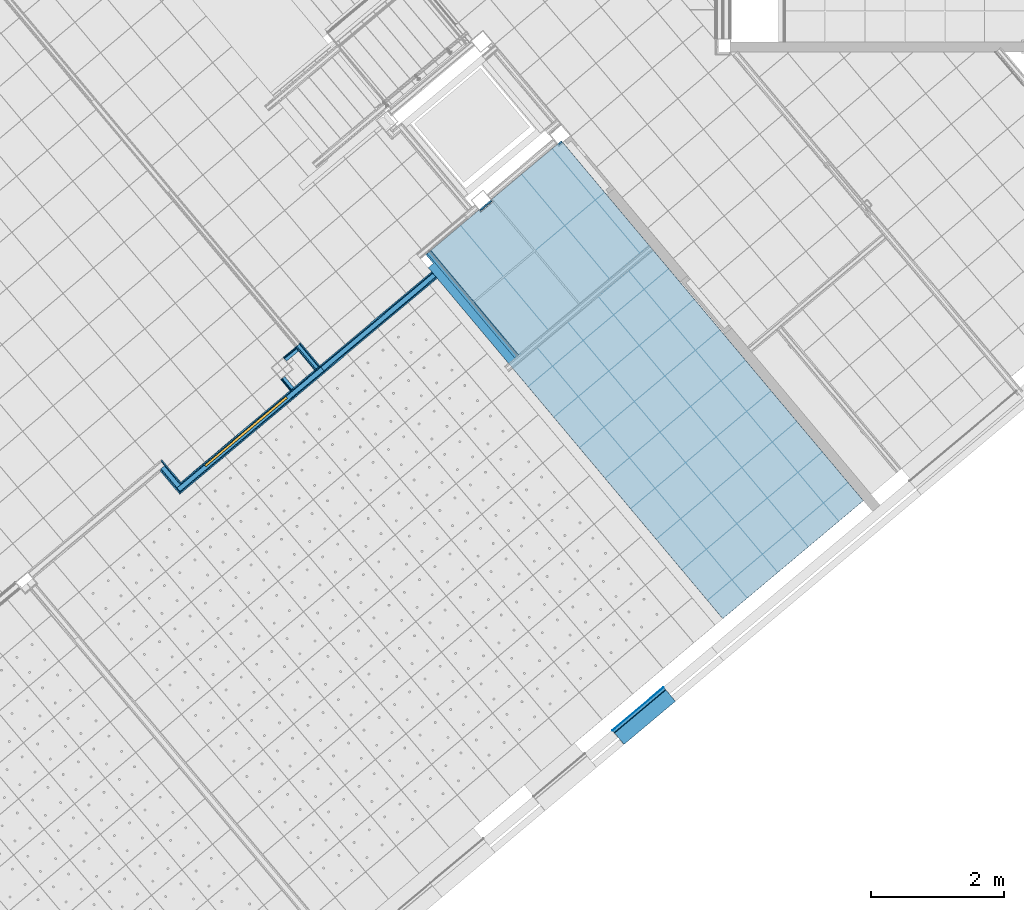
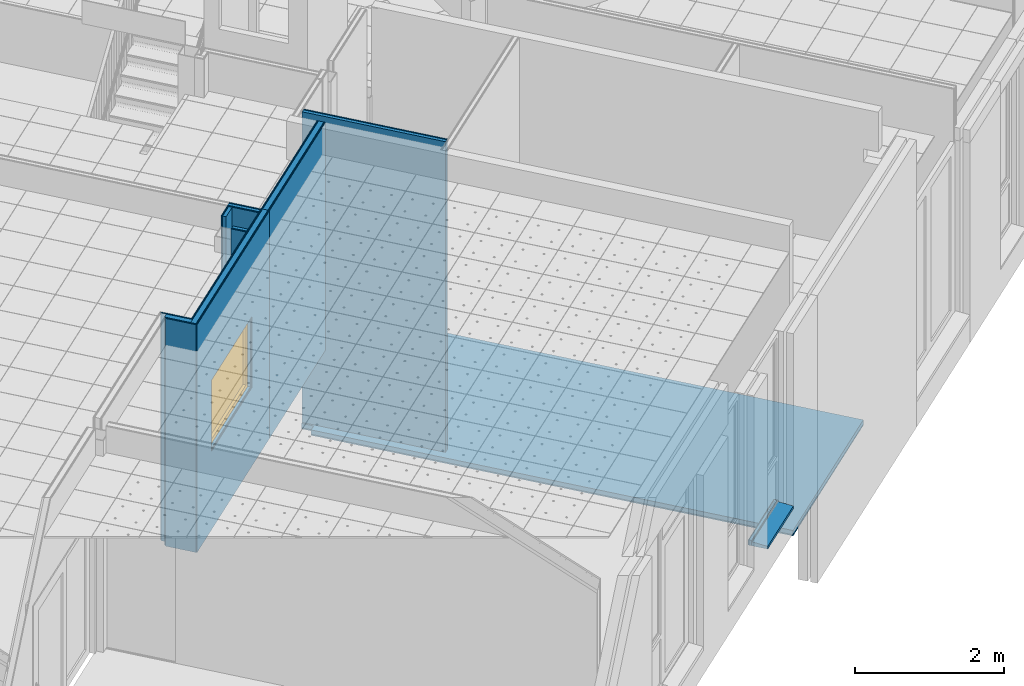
# One storey, part 65 of 338: 34 building element parts, 1 window, 1 opening, 9 elements without a shape of their own.
"""IFC2X3 building model written with IfcOpenShell, lengths in millimetres."""

from ifc_helpers import new_model, entity, si_unit, converted_unit, derived_unit, money_unit, direction, frame, origin_with_axes, place, context, subcontext, project, spatial, open_shell, faceted_brep, surface_model, material, type_object, element, fill, aggregate, save


model = new_model("IFC2X3")

# Units and contexts
model_context = context("Model", 3, precision=0.01, world=origin_with_axes(), true_north=direction((0.0, 1.0)))
plan_context = context("Plan", 3, precision=0.01, world=origin_with_axes(), true_north=direction((0.0, 1.0)))
body_context = subcontext(model_context, "Body", "Model", "MODEL_VIEW")
ifc_project = project(units=[si_unit("LENGTHUNIT", "METRE", prefix="MILLI"), si_unit("AREAUNIT", "SQUARE_METRE"), si_unit("VOLUMEUNIT", "CUBIC_METRE"), converted_unit("PLANEANGLEUNIT", "DEGREE", entity("IfcPlaneAngleMeasure", 0.0174532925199), si_unit("PLANEANGLEUNIT", "RADIAN"), dimensions=[0, 0, 0, 0, 0, 0, 0]), money_unit("EUR"), converted_unit("TIMEUNIT", "Year", entity("IfcTimeMeasure", 31556926.0), si_unit("TIMEUNIT", "SECOND"), dimensions=[0, 0, 1, 0, 0, 0, 0]), si_unit("MASSUNIT", "GRAM", prefix="KILO"), si_unit("THERMODYNAMICTEMPERATUREUNIT", "DEGREE_CELSIUS"), si_unit("LUMINOUSINTENSITYUNIT", "LUMEN"), si_unit("ENERGYUNIT", "JOULE", prefix="MEGA"), derived_unit("THERMALCONDUCTANCEUNIT", [(si_unit("POWERUNIT", "WATT"), 1), (si_unit("LENGTHUNIT", "METRE"), -1), (si_unit("THERMODYNAMICTEMPERATUREUNIT", "KELVIN"), -1)]), derived_unit("SPECIFICHEATCAPACITYUNIT", [(si_unit("ENERGYUNIT", "JOULE"), 1), (si_unit("MASSUNIT", "GRAM", prefix="KILO"), -1), (si_unit("THERMODYNAMICTEMPERATUREUNIT", "KELVIN"), -1)]), derived_unit("MASSDENSITYUNIT", [(si_unit("MASSUNIT", "GRAM", prefix="KILO"), 1), (si_unit("VOLUMEUNIT", "CUBIC_METRE"), -1)])], contexts=[model_context, plan_context])

# Site, building, storey
site_placement = place(None, origin_with_axes())
site = spatial("IfcSite", under=ifc_project, at=site_placement, Name="Fortuinstraat Woensdrecht", CompositionType="ELEMENT")
building_placement = place(site_placement, origin_with_axes())
building = spatial("IfcBuilding", under=site, at=building_placement, Name="IKC Fortuna", CompositionType="ELEMENT")
storey_placement = place(building_placement, origin_with_axes())
storey = spatial("IfcBuildingStorey", under=building, at=storey_placement, Name="00 begane grond", CompositionType="ELEMENT", Elevation=0.0)

# Window
window_style = type_object("IfcWindowStyle", Name="R1 25", ConstructionType="NOTDEFINED", OperationType="SINGLE_PANEL", ParameterTakesPrecedence=False, Sizeable=False)
wall_1_placement = place(storey_placement, frame((17481.9274939, -4940.09668432, 1360.0), z_axis=(0.0, 0.0, 1.0), x_axis=(0.766044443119, 0.642787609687, 0.0)))
opening_placement = place(wall_1_placement, frame((1305.49959372, 0.0, 1290.0), z_axis=(0.0, 0.0, 1.0), x_axis=(1.0, 0.0, 0.0)))
window_placement = place(opening_placement, frame((800.0, 0.0, 0.0), z_axis=(0.0, 0.0, 1.0), x_axis=(-1.0, 0.0, 0.0)))
window = element("IfcWindow", 1, at=window_placement, inside=storey, type_object=window_style, Name="32_Raam_h.05", ObjectType="WINDOW", OverallHeight=1167.0, OverallWidth=1600.0, context=body_context, shape_type="SurfaceModel", body=[
    faceted_brep([(1533.0, -125.0, 1100.0), (1600.0, -125.0, 1100.0), (1600.0, -63.0, 1100.0), (1533.0, -63.0, 1100.0), (1533.0, -125.0, 67.0), (1600.0, -125.0, 67.0), (1600.0, -63.0, 67.0), (1533.0, -63.0, 67.0)], [[[0, 1, 2, 3]], [[0, 4, 5, 1]], [[1, 5, 6, 2]], [[3, 2, 6, 7]], [[4, 0, 3, 7]], [[5, 4, 7, 6]]]),
    faceted_brep([(67.0, -125.0, 67.0), (0.0, -125.0, 67.0), (0.0, -63.0, 67.0), (67.0, -63.0, 67.0), (67.0, -125.0, 1100.0), (0.0, -125.0, 1100.0), (0.0, -63.0, 1100.0), (67.0, -63.0, 1100.0)], [[[0, 1, 2, 3]], [[0, 4, 5, 1]], [[1, 5, 6, 2]], [[3, 2, 6, 7]], [[4, 0, 3, 7]], [[5, 4, 7, 6]]]),
    faceted_brep([(1533.0, -125.0, 67.0), (1600.0, -125.0, 67.0), (1600.0, -63.0, 67.0), (1533.0, -63.0, 67.0), (67.0, -125.0, 67.0), (0.0, -125.0, 67.0), (0.0, -125.0, 0.0), (1600.0, -125.0, 0.0), (1600.0, -63.0, 0.0), (0.0, -63.0, 0.0), (0.0, -63.0, 67.0), (67.0, -63.0, 67.0)], [[[0, 1, 2, 3]], [[0, 4, 5, 6, 7, 1]], [[1, 7, 8, 2]], [[3, 2, 8, 9, 10, 11]], [[4, 0, 3, 11]], [[5, 4, 11, 10]], [[6, 5, 10, 9]], [[7, 6, 9, 8]]]),
    faceted_brep([(67.0, -125.0, 1100.0), (0.0, -125.0, 1100.0), (0.0, -63.0, 1100.0), (67.0, -63.0, 1100.0), (1533.0, -125.0, 1100.0), (1600.0, -125.0, 1100.0), (1600.0, -125.0, 1167.0), (0.0, -125.0, 1167.0), (0.0, -63.0, 1167.0), (1600.0, -63.0, 1167.0), (1600.0, -63.0, 1100.0), (1533.0, -63.0, 1100.0)], [[[0, 1, 2, 3]], [[0, 4, 5, 6, 7, 1]], [[1, 7, 8, 2]], [[3, 2, 8, 9, 10, 11]], [[4, 0, 3, 11]], [[5, 4, 11, 10]], [[6, 5, 10, 9]], [[7, 6, 9, 8]]]),
    surface_model("IfcShellBasedSurfaceModel", [(1533.0, -127.0, 67.0), (1533.0, -127.0, 1100.0), (67.0, -127.0, 1100.0), (67.0, -127.0, 67.0)], [open_shell([[[0, 1, 2, 3]]])]),
    surface_model("IfcShellBasedSurfaceModel", [(1533.0, -107.0, 67.0), (67.0, -107.0, 67.0), (67.0, -107.0, 1100.0), (1533.0, -107.0, 1100.0)], [open_shell([[[0, 1, 2, 3]]])]),
])

# Covering, building element parts
covering_type_1 = type_object("IfcCoveringType", Name="41 dorpel 1450 280 x 88", PredefinedType="NOTDEFINED")
covering_1_placement = place(storey_placement, frame((24032.7808189, -8641.83053966, 1447.5), z_axis=(0.0, 0.0, 1.0), x_axis=(0.76604443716, 0.642787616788, 0.0)))
covering_1 = element("IfcCovering", 2, at=covering_1_placement, inside=storey, type_object=covering_type_1, Name="41_Afwerking_Dorpel", PredefinedType="NOTDEFINED")
ifc_material_1 = material(Name="Isolatie - PUR gespoten")
building_element_part_1_placement = place(covering_1_placement, origin_with_axes())
building_element_part_1 = element("IfcBuildingElementPart", 3, at=building_element_part_1_placement, material=ifc_material_1, Name="Isolatie - PUR gespoten", context=body_context, shape_type="Brep", body=[
    faceted_brep([(1010.00000281, 129.999999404, 2.49999869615), (1010.00000281, 140.000000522, 2.5), (0.0, 140.000000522, 2.5), (0.0, 129.999999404, 2.49999869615), (1010.00000281, 129.999999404, -85.0), (1010.00000281, 140.000000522, -85.0), (0.0, 140.000000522, -85.0), (0.0, 129.999999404, -85.0)], [[[0, 1, 2, 3]], [[0, 4, 5, 1]], [[1, 5, 6, 2]], [[3, 2, 6, 7]], [[4, 0, 3, 7]], [[5, 4, 7, 6]]]),
])
ifc_material_2 = material(Name="Hout AFW")
building_element_part_2_placement = place(covering_1_placement, origin_with_axes())
building_element_part_2 = element("IfcBuildingElementPart", 4, at=building_element_part_2_placement, material=ifc_material_2, Name="Hout AFW", context=body_context, shape_type="Brep", body=[
    faceted_brep([(1010.00000281, 130.0, 2.49999910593), (1010.00000281, 130.0, -85.0), (0.0, 130.0, -85.0), (0.0, 130.0, 2.49999910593), (1010.00000281, 92.0000008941, 2.49999910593), (1010.00000281, 92.0000008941, -85.0), (0.0, 92.0000008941, -85.0), (0.0, 92.0000008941, 2.49999910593)], [[[0, 1, 2, 3]], [[0, 4, 5, 1]], [[1, 5, 6, 2]], [[3, 2, 6, 7]], [[4, 0, 3, 7]], [[5, 4, 7, 6]]]),
])
ifc_material_3 = material(Name="Steen - Kunststeen")
building_element_part_3_placement = place(covering_1_placement, origin_with_axes())
building_element_part_3 = element("IfcBuildingElementPart", 5, at=building_element_part_3_placement, material=ifc_material_3, Name="Steen - Kunststeen", context=body_context, shape_type="Brep", body=[
    faceted_brep([(1010.00000281, 82.0, -19.5865456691), (1010.00000281, 82.0, 2.5), (0.0, 82.0, 2.5), (0.0, 82.0, -19.5865456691), (1010.00000281, -140.0, -39.7722078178), (1010.00000281, -140.0, -85.0), (1010.00000281, 92.0, -85.0), (1010.00000281, 92.0, 2.5), (0.0, 92.0, 2.5), (0.0, 92.0, -85.0), (0.0, -140.0, -85.0), (0.0, -140.0, -39.7722078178)], [[[0, 1, 2, 3]], [[0, 4, 5, 6, 7, 1]], [[1, 7, 8, 2]], [[3, 2, 8, 9, 10, 11]], [[4, 0, 3, 11]], [[5, 4, 11, 10]], [[6, 5, 10, 9]], [[7, 6, 9, 8]]]),
])
aggregate(covering_1, [building_element_part_1, building_element_part_2, building_element_part_3])

# Wall, opening
wall_type_1 = type_object("IfcWallType", Name="MS125 2.75.2A 125", PredefinedType="NOTDEFINED")
wall_1 = element("IfcWall", 6, at=wall_1_placement, inside=storey, type_object=wall_type_1, Name="22_Wand_Binnenwand")
opening = element("IfcOpeningElement", 7, at=opening_placement, cuts=wall_1, Name="32_Raam_h.05", context=body_context, shape_type="Brep", body=[
    faceted_brep([(800.0, 250.0, 0.0), (800.0, 250.0, 1167.0), (800.0, -125.0, 1167.0), (800.0, -125.0, 0.0), (-800.0, 250.0, 0.0), (-800.0, 250.0, 1167.0), (-800.0, -125.0, 1167.0), (-800.0, -125.0, 0.0)], [[[0, 1, 2, 3]], [[0, 4, 5, 1]], [[1, 5, 6, 2]], [[3, 2, 6, 7]], [[4, 0, 3, 7]], [[5, 4, 7, 6]]]),
])

fill(opening, window)

# Building element part
ifc_material_4 = material(Name="Gipsplaat")
building_element_part_4_placement = place(wall_1_placement, origin_with_axes())
building_element_part_4 = element("IfcBuildingElementPart", 8, at=building_element_part_4_placement, material=ifc_material_4, Name="Gipsplaat", context=body_context, shape_type="Brep", body=[
    faceted_brep([(50.0, 125.0, 3740.0), (2793.49959372, 125.0, 3740.0), (2793.49959372, 125.0, 0.0), (50.0, 125.0, 0.0), (505.499593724, 125.0, 1290.0), (2105.49959372, 125.0, 1290.0), (2105.49959372, 125.0, 2457.0), (505.499593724, 125.0, 2457.0), (50.0, 112.5, 3740.0), (2793.49959372, 112.5, 3740.0), (2793.49959372, 112.5, 0.0), (50.0, 112.5, 0.0), (505.499593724, 112.5, 1290.0), (2105.49959372, 112.5, 1290.0), (2105.49959372, 112.5, 2457.0), (505.499593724, 112.5, 2457.0)], [[[0, 1, 2, 3], [4, 5, 6, 7]], [[8, 9, 1, 0]], [[1, 9, 10, 2]], [[3, 2, 10, 11]], [[0, 3, 11, 8]], [[12, 13, 5, 4]], [[13, 14, 6, 5]], [[14, 15, 7, 6]], [[15, 12, 4, 7]], [[11, 10, 9, 8], [12, 15, 14, 13]]]),
])

building_element_part_5_placement = place(wall_1_placement, origin_with_axes())
building_element_part_5 = element("IfcBuildingElementPart", 9, at=building_element_part_5_placement, material=ifc_material_4, Name="Gipsplaat", context=body_context, shape_type="Brep", body=[
    faceted_brep([(37.5, 112.5, 3740.0), (2793.49959372, 112.5, 3740.0), (2793.49959372, 112.5, 0.0), (37.5, 112.5, 0.0), (505.499593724, 112.5, 1290.0), (2105.49959372, 112.5, 1290.0), (2105.49959372, 112.5, 2457.0), (505.499593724, 112.5, 2457.0), (37.5, 100.0, 3740.0), (2793.49959372, 100.0, 3740.0), (2793.49959372, 100.0, 0.0), (37.5, 100.0, 0.0), (505.499593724, 100.0, 1290.0), (2105.49959372, 100.0, 1290.0), (2105.49959372, 100.0, 2457.0), (505.499593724, 100.0, 2457.0)], [[[0, 1, 2, 3], [4, 5, 6, 7]], [[8, 9, 1, 0]], [[1, 9, 10, 2]], [[3, 2, 10, 11]], [[0, 3, 11, 8]], [[12, 13, 5, 4]], [[13, 14, 6, 5]], [[14, 15, 7, 6]], [[15, 12, 4, 7]], [[11, 10, 9, 8], [12, 15, 14, 13]]]),
])

ifc_material_5 = material(Name="Isolatie - Steenwol LSW")
building_element_part_6_placement = place(wall_1_placement, origin_with_axes())
building_element_part_6 = element("IfcBuildingElementPart", 10, at=building_element_part_6_placement, material=ifc_material_5, Name="Isolatie - Steenwol LSW", context=body_context, shape_type="Brep", body=[
    faceted_brep([(-37.5, 100.0, 3740.0), (2793.49959372, 100.0, 3740.0), (2793.49959372, 100.0, 0.0), (-37.5, 100.0, 0.0), (505.499593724, 100.0, 1290.0), (2105.49959372, 100.0, 1290.0), (2105.49959372, 100.0, 2457.0), (505.499593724, 100.0, 2457.0), (-37.5, 25.0, 3740.0), (2793.49959372, 25.0, 3740.0), (2793.49959372, 25.0, 0.0), (-37.5, 25.0, 0.0), (505.499593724, 25.0, 1290.0), (2105.49959372, 25.0, 1290.0), (2105.49959372, 25.0, 2457.0), (505.499593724, 25.0, 2457.0)], [[[0, 1, 2, 3], [4, 5, 6, 7]], [[8, 9, 1, 0]], [[1, 9, 10, 2]], [[3, 2, 10, 11]], [[0, 3, 11, 8]], [[12, 13, 5, 4]], [[13, 14, 6, 5]], [[14, 15, 7, 6]], [[15, 12, 4, 7]], [[11, 10, 9, 8], [12, 15, 14, 13]]]),
])

building_element_part_7_placement = place(wall_1_placement, origin_with_axes())
building_element_part_7 = element("IfcBuildingElementPart", 11, at=building_element_part_7_placement, material=ifc_material_4, Name="Gipsplaat", context=body_context, shape_type="Brep", body=[
    faceted_brep([(2793.49959372, 25.0, 3740.0), (2793.49959372, 25.0, 0.0), (-50.0, 25.0, 0.0), (-50.0, 25.0, 3740.0), (505.499593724, 25.0, 1290.0), (2105.49959372, 25.0, 1290.0), (2105.49959372, 25.0, 2457.0), (505.499593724, 25.0, 2457.0), (2793.49959372, 12.5, 3740.0), (2793.49959372, 12.5, 0.0), (-50.0, 12.5, 0.0), (-50.0, 12.5, 3740.0), (505.499593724, 12.5, 1290.0), (2105.49959372, 12.5, 1290.0), (2105.49959372, 12.5, 2457.0), (505.499593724, 12.5, 2457.0)], [[[0, 1, 2, 3], [4, 5, 6, 7]], [[8, 9, 1, 0]], [[1, 9, 10, 2]], [[2, 10, 11, 3]], [[8, 0, 3, 11]], [[12, 13, 5, 4]], [[13, 14, 6, 5]], [[14, 15, 7, 6]], [[15, 12, 4, 7]], [[9, 8, 11, 10], [12, 15, 14, 13]]]),
])

building_element_part_8_placement = place(wall_1_placement, origin_with_axes())
building_element_part_8 = element("IfcBuildingElementPart", 12, at=building_element_part_8_placement, material=ifc_material_4, Name="Gipsplaat", context=body_context, shape_type="Brep", body=[
    faceted_brep([(2793.49959372, 12.5, 3740.0), (2793.49959372, 12.5, 0.0), (-62.5, 12.5, 0.0), (-62.5, 12.5, 3740.0), (505.499593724, 12.5, 1290.0), (2105.49959372, 12.5, 1290.0), (2105.49959372, 12.5, 2457.0), (505.499593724, 12.5, 2457.0), (2793.49959372, 0.0, 3740.0), (2793.49959372, 0.0, 0.0), (-62.5, 0.0, 0.0), (-62.5, 0.0, 3740.0), (505.499593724, 0.0, 1290.0), (2105.49959372, 0.0, 1290.0), (2105.49959372, 0.0, 2457.0), (505.499593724, 0.0, 2457.0)], [[[0, 1, 2, 3], [4, 5, 6, 7]], [[8, 9, 1, 0]], [[1, 9, 10, 2]], [[2, 10, 11, 3]], [[8, 0, 3, 11]], [[12, 13, 5, 4]], [[13, 14, 6, 5]], [[14, 15, 7, 6]], [[15, 12, 4, 7]], [[9, 8, 11, 10], [12, 15, 14, 13]]]),
])

aggregate(wall_1, [building_element_part_4, building_element_part_5, building_element_part_6, building_element_part_7, building_element_part_8])

# Wall, building element parts
wall_2_placement = place(storey_placement, frame((17481.9274939, -4940.09668432, 1360.0), z_axis=(0.0, 0.0, 1.0), x_axis=(-0.642787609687, 0.766044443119, 0.0)))
wall_2 = element("IfcWall", 13, at=wall_2_placement, inside=storey, type_object=wall_type_1, Name="22_Wand_Binnenwand")
building_element_part_9_placement = place(wall_2_placement, origin_with_axes())
building_element_part_9 = element("IfcBuildingElementPart", 14, at=building_element_part_9_placement, material=ifc_material_4, Name="Gipsplaat", context=body_context, shape_type="Brep", body=[
    faceted_brep([(450.0, 62.5, 3740.0), (12.5, 62.5, 3740.0), (12.5, 50.0, 3740.0), (450.0, 50.0, 3740.0), (450.0, 62.5, 0.0), (12.5, 62.5, 0.0), (12.5, 50.0, 0.0), (450.0, 50.0, 0.0)], [[[0, 1, 2, 3]], [[4, 5, 1, 0]], [[2, 1, 5, 6]], [[3, 2, 6, 7]], [[3, 7, 4, 0]], [[7, 6, 5, 4]]]),
])
building_element_part_10_placement = place(wall_2_placement, origin_with_axes())
building_element_part_10 = element("IfcBuildingElementPart", 15, at=building_element_part_10_placement, material=ifc_material_4, Name="Gipsplaat", context=body_context, shape_type="Brep", body=[
    faceted_brep([(462.5, 50.0, 3740.0), (25.0, 50.0, 3740.0), (25.0, 37.5, 3740.0), (462.5, 37.5, 3740.0), (462.5, 50.0, 0.0), (25.0, 50.0, 0.0), (25.0, 37.5, 0.0), (462.5, 37.5, 0.0)], [[[0, 1, 2, 3]], [[4, 5, 1, 0]], [[2, 1, 5, 6]], [[3, 2, 6, 7]], [[3, 7, 4, 0]], [[7, 6, 5, 4]]]),
])
building_element_part_11_placement = place(wall_2_placement, origin_with_axes())
building_element_part_11 = element("IfcBuildingElementPart", 16, at=building_element_part_11_placement, material=ifc_material_5, Name="Isolatie - Steenwol LSW", context=body_context, shape_type="Brep", body=[
    faceted_brep([(475.0, 37.5, 3740.0), (100.0, 37.5, 3740.0), (100.0, -37.5, 3740.0), (475.0, -37.5, 3740.0), (475.0, 37.5, 0.0), (100.0, 37.5, 0.0), (100.0, -37.5, 0.0), (475.0, -37.5, 0.0)], [[[0, 1, 2, 3]], [[4, 5, 1, 0]], [[2, 1, 5, 6]], [[3, 2, 6, 7]], [[3, 7, 4, 0]], [[7, 6, 5, 4]]]),
])
building_element_part_12_placement = place(wall_2_placement, origin_with_axes())
building_element_part_12 = element("IfcBuildingElementPart", 17, at=building_element_part_12_placement, material=ifc_material_4, Name="Gipsplaat", context=body_context, shape_type="Brep", body=[
    faceted_brep([(550.0, -37.5, 3740.0), (112.5, -37.5, 3740.0), (112.5, -50.0, 3740.0), (550.0, -50.0, 3740.0), (550.0, -37.5, 0.0), (112.5, -37.5, 0.0), (112.5, -50.0, 0.0), (550.0, -50.0, 0.0)], [[[0, 1, 2, 3]], [[4, 5, 1, 0]], [[2, 1, 5, 6]], [[3, 2, 6, 7]], [[3, 7, 4, 0]], [[7, 6, 5, 4]]]),
])
building_element_part_13_placement = place(wall_2_placement, origin_with_axes())
building_element_part_13 = element("IfcBuildingElementPart", 18, at=building_element_part_13_placement, material=ifc_material_4, Name="Gipsplaat", context=body_context, shape_type="Brep", body=[
    faceted_brep([(562.5, -50.0, 3740.0), (125.0, -50.0, 3740.0), (125.0, -62.5, 3740.0), (562.5, -62.5, 3740.0), (562.5, -50.0, 0.0), (125.0, -50.0, 0.0), (125.0, -62.5, 0.0), (562.5, -62.5, 0.0)], [[[0, 1, 2, 3]], [[4, 5, 1, 0]], [[2, 1, 5, 6]], [[3, 2, 6, 7]], [[3, 7, 4, 0]], [[7, 6, 5, 4]]]),
])
aggregate(wall_2, [building_element_part_9, building_element_part_10, building_element_part_11, building_element_part_12, building_element_part_13])

# Covering, building element parts
covering_type_2 = type_object("IfcCoveringType", Name="43 Vloerafwerking 90", PredefinedType="FLOORING")
covering_2_placement = place(storey_placement, frame((21061.301629, -1437.32232105, 0.0), z_axis=(0.0, 0.0, 1.0), x_axis=(1.0, 0.0, 0.0)))
covering_2 = element("IfcCovering", 19, at=covering_2_placement, inside=storey, type_object=covering_type_2, Name="43_Vloerafwerking_Vloerafwerking", PredefinedType="FLOORING")
ifc_material_6 = material(Name="Cement")
building_element_part_14_placement = place(covering_2_placement, origin_with_axes())
building_element_part_14 = element("IfcBuildingElementPart", 20, at=building_element_part_14_placement, material=ifc_material_6, Name="Cement", context=body_context, shape_type="Brep", body=[
    faceted_brep([(898.188456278, 728.469522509, -50.0), (905.259119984, 720.043033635, -50.0), (1073.78889747, 861.456307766, -50.0), (1066.71823376, 869.88279664, -50.0), (998.923300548, 812.996093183, -50.0), (990.478790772, 809.058353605, -50.0), (981.196760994, 809.870425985, -50.0), (973.564323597, 815.214716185, -50.0), (972.725900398, 816.213910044, -50.0), (967.363589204, 811.714396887, -50.0), (968.202012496, 810.715202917, -50.0), (972.139752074, 802.270693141, -50.0), (971.327679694, 792.988663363, -50.0), (965.983389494, 785.356225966, -50.0), (898.188456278, 728.469522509, 0.0), (885.779854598, 743.25751814, 0.0), (885.779854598, 743.25751814, -70.0), (905.259119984, 720.043033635, -70.0), (1073.78889747, 861.456307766, -70.0), (1054.309635, 884.670788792, -70.0), (1054.309635, 884.670788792, 0.0), (1066.71823376, 869.88279664, 0.0), (998.923300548, 812.996093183, 0.0), (990.478790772, 809.058353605, 0.0), (981.196760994, 809.870425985, 0.0), (973.564323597, 815.214716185, 0.0), (972.725900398, 816.213910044, 0.0), (967.363589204, 811.714396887, 0.0), (968.202012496, 810.715202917, 0.0), (972.139752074, 802.270693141, 0.0), (971.327679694, 792.988663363, 0.0), (965.983389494, 785.356225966, 0.0)], [[[0, 1, 2, 3, 4, 5, 6, 7, 8, 9, 10, 11, 12, 13]], [[1, 0, 14, 15, 16, 17]], [[2, 1, 17, 18]], [[3, 2, 18, 19, 20, 21]], [[3, 21, 22, 4]], [[22, 23, 5, 4]], [[23, 24, 6, 5]], [[24, 25, 7, 6]], [[25, 26, 8, 7]], [[16, 15, 27, 9, 8, 26, 20, 19]], [[27, 28, 10, 9]], [[28, 29, 11, 10]], [[29, 30, 12, 11]], [[30, 31, 13, 12]], [[14, 0, 13, 31]], [[15, 14, 31, 30, 29, 28, 27]], [[17, 16, 19, 18]], [[21, 20, 26, 25, 24, 23, 22]]]),
    faceted_brep([(903.718409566, 702.432632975, 0.0), (876.204298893, 735.222673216, 0.0), (76.6044206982, 64.2787384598, 0.0), (189.094495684, -69.7817125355, 0.0), (112.781554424, -133.815873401, 0.0), (4548.01604559, -5419.52251224, 0.0), (6665.83736742, -3642.45949668, 0.0), (2137.38767573, 1754.33670974, 0.0), (2083.76465314, 1709.34165126, 0.0), (2076.69398944, 1717.76814013, 0.0), (2130.31701204, 1762.76319862, 0.0), (2118.11280859, 1777.30760197, 0.0), (1063.88519071, 892.705633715, 0.0), (1091.39929813, 859.915597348, 0.0), (903.718409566, 702.432632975, -70.0), (876.204298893, 735.222673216, -70.0), (76.6044206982, 64.2787384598, -70.0), (189.094495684, -69.7817125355, -70.0), (112.781554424, -133.815873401, -70.0), (4548.01604559, -5419.52251224, -70.0), (6665.83736742, -3642.45949668, -70.0), (2130.31701204, 1762.76319862, -50.0), (2137.38767573, 1754.33670974, -50.0), (2118.11280859, 1777.30760197, -70.0), (2083.76465314, 1709.34165126, -50.0), (2076.69398944, 1717.76814013, -50.0), (1063.88519071, 892.705633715, -70.0), (1091.39929813, 859.915597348, -70.0)], [[[0, 1, 2, 3, 4, 5, 6, 7, 8, 9, 10, 11, 12, 13]], [[1, 0, 14, 15]], [[1, 15, 16, 2]], [[17, 3, 2, 16]], [[18, 4, 3, 17]], [[5, 4, 18, 19]], [[20, 6, 5, 19]], [[21, 22, 7, 6, 20, 23, 11, 10]], [[8, 7, 22, 24]], [[9, 8, 24, 25]], [[21, 10, 9, 25]], [[26, 12, 11, 23]], [[13, 12, 26, 27]], [[0, 13, 27, 14]], [[27, 26, 23, 20, 19, 18, 17, 16, 15, 14]], [[22, 21, 25, 24]]]),
])
ifc_material_7 = material(Name="Isolatie - XPS zwevende dekvloer")
building_element_part_15_placement = place(covering_2_placement, origin_with_axes())
building_element_part_15 = element("IfcBuildingElementPart", 21, at=building_element_part_15_placement, material=ifc_material_7, Name="Isolatie - XPS zwevende dekvloer", context=body_context, shape_type="Brep", body=[
    faceted_brep([(885.779854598, 743.25751814, -70.0), (905.259119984, 720.043033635, -70.0), (1073.78889747, 861.456307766, -70.0), (1054.309635, 884.670788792, -70.0), (885.779854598, 743.25751814, -90.0), (905.259119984, 720.043033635, -90.0), (1073.78889747, 861.456307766, -90.0), (1054.309635, 884.670788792, -90.0)], [[[0, 1, 2, 3]], [[1, 0, 4, 5]], [[2, 1, 5, 6]], [[3, 2, 6, 7]], [[4, 0, 3, 7]], [[5, 4, 7, 6]]]),
    faceted_brep([(903.718409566, 702.432632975, -70.0), (876.204298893, 735.222673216, -70.0), (76.6044206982, 64.2787384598, -70.0), (189.094495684, -69.7817125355, -70.0), (112.781554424, -133.815873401, -70.0), (4548.01604559, -5419.52251224, -70.0), (6665.83736742, -3642.45949668, -70.0), (2118.11280859, 1777.30760197, -70.0), (1063.88519071, 892.705633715, -70.0), (1091.39929813, 859.915597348, -70.0), (903.718409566, 702.432632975, -90.0), (876.204298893, 735.222673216, -90.0), (76.6044206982, 64.2787384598, -90.0), (189.094495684, -69.7817125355, -90.0), (112.781554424, -133.815873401, -90.0), (4548.01604559, -5419.52251224, -90.0), (6665.83736742, -3642.45949668, -90.0), (2118.11280859, 1777.30760197, -90.0), (1063.88519071, 892.705633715, -90.0), (1091.39929813, 859.915597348, -90.0)], [[[0, 1, 2, 3, 4, 5, 6, 7, 8, 9]], [[1, 0, 10, 11]], [[1, 11, 12, 2]], [[13, 3, 2, 12]], [[14, 4, 3, 13]], [[5, 4, 14, 15]], [[16, 6, 5, 15]], [[17, 7, 6, 16]], [[18, 8, 7, 17]], [[9, 8, 18, 19]], [[0, 9, 19, 10]], [[19, 18, 17, 16, 15, 14, 13, 12, 11, 10]]]),
])
aggregate(covering_2, [building_element_part_14, building_element_part_15])

# Wall, building element parts
wall_type_2 = type_object("IfcWallType", Name="MS75 50.2A 75", PredefinedType="NOTDEFINED")
wall_3_placement = place(storey_placement, frame((22598.8590643, -2958.56712535, -90.0), z_axis=(0.0, 0.0, 1.0), x_axis=(-0.642787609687, 0.766044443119, 0.0)))
wall_3 = element("IfcWall", 22, at=wall_3_placement, inside=storey, type_object=wall_type_2, Name="22_Wand_Binnenwand")
building_element_part_16_placement = place(wall_3_placement, origin_with_axes())
building_element_part_16 = element("IfcBuildingElementPart", 23, at=building_element_part_16_placement, material=ifc_material_5, Name="Isolatie - Steenwol LSW", context=body_context, shape_type="Brep", body=[
    faceted_brep([(2153.66400696, 25.0, 0.0), (100.0, 25.0, 0.0), (100.0, 75.0, 0.0), (2153.66400696, 75.0, 0.0), (2153.66400696, 25.0, 5190.0), (100.0, 25.0, 5190.0), (100.0, 75.0, 5190.0), (2153.66400696, 75.0, 5190.0)], [[[0, 1, 2, 3]], [[4, 5, 1, 0]], [[2, 1, 5, 6]], [[3, 2, 6, 7]], [[3, 7, 4, 0]], [[7, 6, 5, 4]]]),
])
building_element_part_17_placement = place(wall_3_placement, origin_with_axes())
building_element_part_17 = element("IfcBuildingElementPart", 24, at=building_element_part_17_placement, material=ifc_material_4, Name="Gipsplaat", context=body_context, shape_type="Brep", body=[
    faceted_brep([(2153.66400696, 12.5, 0.0), (100.0, 12.5, 0.0), (100.0, 25.0, 0.0), (2153.66400696, 25.0, 0.0), (2153.66400696, 12.5, 5190.0), (100.0, 12.5, 5190.0), (100.0, 25.0, 5190.0), (2153.66400696, 25.0, 5190.0)], [[[0, 1, 2, 3]], [[4, 5, 1, 0]], [[2, 1, 5, 6]], [[3, 2, 6, 7]], [[3, 7, 4, 0]], [[7, 6, 5, 4]]]),
])
building_element_part_18_placement = place(wall_3_placement, origin_with_axes())
building_element_part_18 = element("IfcBuildingElementPart", 25, at=building_element_part_18_placement, material=ifc_material_4, Name="Gipsplaat", context=body_context, shape_type="Brep", body=[
    faceted_brep([(2153.66400696, 0.0, 0.0), (100.0, 0.0, 0.0), (100.0, 12.5, 0.0), (2153.66400696, 12.5, 0.0), (2153.66400696, 0.0, 5190.0), (100.0, 0.0, 5190.0), (100.0, 12.5, 5190.0), (2153.66400696, 12.5, 5190.0)], [[[0, 1, 2, 3]], [[4, 5, 1, 0]], [[2, 1, 5, 6]], [[3, 2, 6, 7]], [[3, 7, 4, 0]], [[7, 6, 5, 4]]]),
])
aggregate(wall_3, [building_element_part_16, building_element_part_17, building_element_part_18])

wall_type_3 = type_object("IfcWallType", Name="MS100 2.50.2A 100", PredefinedType="NOTDEFINED")
wall_4_placement = place(storey_placement, frame((19252.4628668, -2704.22469748, 1360.0), z_axis=(0.0, 0.0, 1.0), x_axis=(0.642787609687, -0.766044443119, 0.0)))
wall_4 = element("IfcWall", 26, at=wall_4_placement, inside=storey, type_object=wall_type_3, Name="22_Wand_Binnenwand")
building_element_part_19_placement = place(wall_4_placement, origin_with_axes())
building_element_part_19 = element("IfcBuildingElementPart", 27, at=building_element_part_19_placement, material=ifc_material_4, Name="Gipsplaat", context=body_context, shape_type="Brep", body=[
    faceted_brep([(449.699110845, -12.5, 3740.0), (449.699110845, 0.0, 3740.0), (0.0, 0.0, 3740.0), (0.0, -12.5, 3740.0), (449.699110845, -12.5, 0.0), (449.699110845, 0.0, 0.0), (0.0, 0.0, 0.0), (0.0, -12.5, 0.0)], [[[0, 1, 2, 3]], [[1, 0, 4, 5]], [[1, 5, 6, 2]], [[3, 2, 6, 7]], [[4, 0, 3, 7]], [[5, 4, 7, 6]]]),
])
building_element_part_20_placement = place(wall_4_placement, origin_with_axes())
building_element_part_20 = element("IfcBuildingElementPart", 28, at=building_element_part_20_placement, material=ifc_material_4, Name="Gipsplaat", context=body_context, shape_type="Brep", body=[
    faceted_brep([(449.699110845, -25.0, 3740.0), (449.699110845, -12.5, 3740.0), (0.0, -12.5, 3740.0), (0.0, -25.0, 3740.0), (449.699110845, -12.5, 0.0), (449.699110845, -25.0, 0.0), (0.0, -12.5, 0.0), (0.0, -25.0, 0.0)], [[[0, 1, 2, 3]], [[4, 1, 0, 5]], [[1, 4, 6, 2]], [[3, 2, 6, 7]], [[5, 0, 3, 7]], [[4, 5, 7, 6]]]),
])
building_element_part_21_placement = place(wall_4_placement, origin_with_axes())
building_element_part_21 = element("IfcBuildingElementPart", 29, at=building_element_part_21_placement, material=ifc_material_5, Name="Isolatie - Steenwol LSW", context=body_context, shape_type="Brep", body=[
    faceted_brep([(449.699110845, -75.0, 3740.0), (449.699110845, -25.0, 3740.0), (0.0, -25.0, 3740.0), (0.0, -75.0, 3740.0), (449.699110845, -25.0, 0.0), (449.699110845, -75.0, 0.0), (0.0, -25.0, 0.0), (0.0, -75.0, 0.0)], [[[0, 1, 2, 3]], [[4, 1, 0, 5]], [[1, 4, 6, 2]], [[3, 2, 6, 7]], [[5, 0, 3, 7]], [[4, 5, 7, 6]]]),
])
building_element_part_22_placement = place(wall_4_placement, origin_with_axes())
building_element_part_22 = element("IfcBuildingElementPart", 30, at=building_element_part_22_placement, material=ifc_material_4, Name="Gipsplaat", context=body_context, shape_type="Brep", body=[
    faceted_brep([(449.699110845, -87.5, 3740.0), (449.699110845, -75.0, 3740.0), (0.0, -75.0, 3740.0), (0.0, -87.5, 3740.0), (449.699110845, -75.0, 0.0), (449.699110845, -87.5, 0.0), (0.0, -75.0, 0.0), (0.0, -87.5, 0.0)], [[[0, 1, 2, 3]], [[4, 1, 0, 5]], [[1, 4, 6, 2]], [[3, 2, 6, 7]], [[5, 0, 3, 7]], [[4, 5, 7, 6]]]),
])
building_element_part_23_placement = place(wall_4_placement, origin_with_axes())
building_element_part_23 = element("IfcBuildingElementPart", 31, at=building_element_part_23_placement, material=ifc_material_4, Name="Gipsplaat", context=body_context, shape_type="Brep", body=[
    faceted_brep([(449.699110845, -100.0, 3740.0), (449.699110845, -87.5, 3740.0), (0.0, -87.5, 3740.0), (0.0, -100.0, 3740.0), (449.699110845, -87.5, 0.0), (449.699110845, -100.0, 0.0), (0.0, -87.5, 0.0), (0.0, -100.0, 0.0)], [[[0, 1, 2, 3]], [[4, 1, 0, 5]], [[1, 4, 6, 2]], [[3, 2, 6, 7]], [[5, 0, 3, 7]], [[4, 5, 7, 6]]]),
])
aggregate(wall_4, [building_element_part_19, building_element_part_20, building_element_part_21, building_element_part_22, building_element_part_23])

wall_5_placement = place(storey_placement, frame((18957.3919399, -3258.58931638, 1450.0), z_axis=(0.0, 0.0, 1.0), x_axis=(0.642787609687, -0.766044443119, 0.0)))
wall_5 = element("IfcWall", 32, at=wall_5_placement, inside=storey, type_object=wall_type_2, Name="22_Wand_Binnenwand")
building_element_part_24_placement = place(wall_5_placement, origin_with_axes())
building_element_part_24 = element("IfcBuildingElementPart", 33, at=building_element_part_24_placement, material=ifc_material_5, Name="Isolatie - Steenwol LSW", context=body_context, shape_type="Brep", body=[
    faceted_brep([(214.699110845, 25.0, 0.0), (0.0, 25.0, 0.0), (0.0, 75.0, 0.0), (214.699110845, 75.0, 0.0), (214.699110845, 25.0, 3650.0), (0.0, 25.0, 3650.0), (0.0, 75.0, 3650.0), (214.699110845, 75.0, 3650.0)], [[[0, 1, 2, 3]], [[4, 5, 1, 0]], [[2, 1, 5, 6]], [[3, 2, 6, 7]], [[3, 7, 4, 0]], [[7, 6, 5, 4]]]),
])
building_element_part_25_placement = place(wall_5_placement, origin_with_axes())
building_element_part_25 = element("IfcBuildingElementPart", 34, at=building_element_part_25_placement, material=ifc_material_4, Name="Gipsplaat", context=body_context, shape_type="Brep", body=[
    faceted_brep([(214.699110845, 12.5, 0.0), (0.0, 12.5, 0.0), (0.0, 25.0, 0.0), (214.699110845, 25.0, 0.0), (214.699110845, 12.5, 3650.0), (0.0, 12.5, 3650.0), (0.0, 25.0, 3650.0), (214.699110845, 25.0, 3650.0)], [[[0, 1, 2, 3]], [[4, 5, 1, 0]], [[2, 1, 5, 6]], [[3, 2, 6, 7]], [[3, 7, 4, 0]], [[7, 6, 5, 4]]]),
])
building_element_part_26_placement = place(wall_5_placement, origin_with_axes())
building_element_part_26 = element("IfcBuildingElementPart", 35, at=building_element_part_26_placement, material=ifc_material_4, Name="Gipsplaat", context=body_context, shape_type="Brep", body=[
    faceted_brep([(214.699110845, 0.0, 0.0), (0.0, 0.0, 0.0), (0.0, 12.5, 0.0), (214.699110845, 12.5, 0.0), (214.699110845, 0.0, 3650.0), (0.0, 0.0, 3650.0), (0.0, 12.5, 3650.0), (214.699110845, 12.5, 3650.0)], [[[0, 1, 2, 3]], [[4, 5, 1, 0]], [[2, 1, 5, 6]], [[3, 2, 6, 7]], [[3, 7, 4, 0]], [[7, 6, 5, 4]]]),
])
aggregate(wall_5, [building_element_part_24, building_element_part_25, building_element_part_26])

wall_6_placement = place(storey_placement, frame((18994.0177402, -2921.08590787, 1450.0), z_axis=(0.0, 0.0, 1.0), x_axis=(0.766044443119, 0.642787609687, 0.0)))
wall_6 = element("IfcWall", 36, at=wall_6_placement, inside=storey, type_object=wall_type_2, Name="22_Wand_Binnenwand")
building_element_part_27_placement = place(wall_6_placement, origin_with_axes())
building_element_part_27 = element("IfcBuildingElementPart", 37, at=building_element_part_27_placement, material=ifc_material_4, Name="Gipsplaat", context=body_context, shape_type="Brep", body=[
    faceted_brep([(237.376152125, -12.5, 0.0), (237.376152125, -12.5, 3650.0), (0.0, -12.5, 3650.0), (0.0, -12.5, 0.0), (237.376152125, 0.0, 3650.0), (237.376152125, 0.0, 0.0), (0.0, 0.0, 3650.0), (0.0, 0.0, 0.0)], [[[0, 1, 2, 3]], [[4, 1, 0, 5]], [[1, 4, 6, 2]], [[7, 3, 2, 6]], [[5, 0, 3, 7]], [[4, 5, 7, 6]]]),
])
building_element_part_28_placement = place(wall_6_placement, origin_with_axes())
building_element_part_28 = element("IfcBuildingElementPart", 38, at=building_element_part_28_placement, material=ifc_material_4, Name="Gipsplaat", context=body_context, shape_type="Brep", body=[
    faceted_brep([(237.376152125, -25.0, 0.0), (237.376152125, -25.0, 3650.0), (0.0, -25.0, 3650.0), (0.0, -25.0, 0.0), (237.376152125, -12.5, 3650.0), (237.376152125, -12.5, 0.0), (0.0, -12.5, 3650.0), (0.0, -12.5, 0.0)], [[[0, 1, 2, 3]], [[4, 1, 0, 5]], [[1, 4, 6, 2]], [[7, 3, 2, 6]], [[5, 0, 3, 7]], [[4, 5, 7, 6]]]),
])
building_element_part_29_placement = place(wall_6_placement, origin_with_axes())
building_element_part_29 = element("IfcBuildingElementPart", 39, at=building_element_part_29_placement, material=ifc_material_5, Name="Isolatie - Steenwol LSW", context=body_context, shape_type="Brep", body=[
    faceted_brep([(237.376152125, -75.0, 0.0), (237.376152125, -75.0, 3650.0), (0.0, -75.0, 3650.0), (0.0, -75.0, 0.0), (237.376152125, -25.0, 3650.0), (237.376152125, -25.0, 0.0), (0.0, -25.0, 3650.0), (0.0, -25.0, 0.0)], [[[0, 1, 2, 3]], [[4, 1, 0, 5]], [[1, 4, 6, 2]], [[7, 3, 2, 6]], [[5, 0, 3, 7]], [[4, 5, 7, 6]]]),
])
aggregate(wall_6, [building_element_part_27, building_element_part_28, building_element_part_29])

wall_7_placement = place(storey_placement, frame((19621.8723345, -3144.46975781, 1360.0), z_axis=(0.0, 0.0, 1.0), x_axis=(0.766044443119, 0.642787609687, 0.0)))
wall_7 = element("IfcWall", 40, at=wall_7_placement, inside=storey, type_object=wall_type_1, Name="22_Wand_Binnenwand")
building_element_part_30_placement = place(wall_7_placement, origin_with_axes())
building_element_part_30 = element("IfcBuildingElementPart", 41, at=building_element_part_30_placement, material=ifc_material_4, Name="Gipsplaat", context=body_context, shape_type="Brep", body=[
    faceted_brep([(0.0, 125.0, 3740.0), (0.0, 112.5, 3740.0), (2200.00005035, 112.5, 3740.0), (2200.00005035, 125.0, 3740.0), (0.0, 125.0, 0.0), (0.0, 112.5, 0.0), (2200.00005035, 112.5, 0.0), (2200.00005035, 125.0, 0.0)], [[[0, 1, 2, 3]], [[4, 5, 1, 0]], [[1, 5, 6, 2]], [[7, 3, 2, 6]], [[4, 0, 3, 7]], [[5, 4, 7, 6]]]),
])
building_element_part_31_placement = place(wall_7_placement, origin_with_axes())
building_element_part_31 = element("IfcBuildingElementPart", 42, at=building_element_part_31_placement, material=ifc_material_4, Name="Gipsplaat", context=body_context, shape_type="Brep", body=[
    faceted_brep([(0.0, 100.0, 3740.0), (2200.00005035, 100.0, 3740.0), (2200.00005035, 112.5, 3740.0), (0.0, 112.5, 3740.0), (0.0, 100.0, 0.0), (2200.00005035, 100.0, 0.0), (2200.00005035, 112.5, 0.0), (0.0, 112.5, 0.0)], [[[0, 1, 2, 3]], [[4, 5, 1, 0]], [[2, 1, 5, 6]], [[3, 2, 6, 7]], [[4, 0, 3, 7]], [[7, 6, 5, 4]]]),
])
building_element_part_32_placement = place(wall_7_placement, origin_with_axes())
building_element_part_32 = element("IfcBuildingElementPart", 43, at=building_element_part_32_placement, material=ifc_material_5, Name="Isolatie - Steenwol LSW", context=body_context, shape_type="Brep", body=[
    faceted_brep([(0.0, 25.0, 3740.0), (2200.00005035, 25.0, 3740.0), (2200.00005035, 100.0, 3740.0), (0.0, 100.0, 3740.0), (0.0, 25.0, 0.0), (2200.00005035, 25.0, 0.0), (2200.00005035, 100.0, 0.0), (0.0, 100.0, 0.0)], [[[0, 1, 2, 3]], [[4, 5, 1, 0]], [[2, 1, 5, 6]], [[3, 2, 6, 7]], [[4, 0, 3, 7]], [[7, 6, 5, 4]]]),
])
building_element_part_33_placement = place(wall_7_placement, origin_with_axes())
building_element_part_33 = element("IfcBuildingElementPart", 44, at=building_element_part_33_placement, material=ifc_material_4, Name="Gipsplaat", context=body_context, shape_type="Brep", body=[
    faceted_brep([(0.0, 12.5, 3740.0), (2200.00005035, 12.5, 3740.0), (2200.00005035, 25.0, 3740.0), (0.0, 25.0, 3740.0), (0.0, 12.5, 0.0), (2200.00005035, 12.5, 0.0), (2200.00005035, 25.0, 0.0), (0.0, 25.0, 0.0)], [[[0, 1, 2, 3]], [[4, 5, 1, 0]], [[2, 1, 5, 6]], [[3, 2, 6, 7]], [[4, 0, 3, 7]], [[7, 6, 5, 4]]]),
])
building_element_part_34_placement = place(wall_7_placement, origin_with_axes())
building_element_part_34 = element("IfcBuildingElementPart", 45, at=building_element_part_34_placement, material=ifc_material_4, Name="Gipsplaat", context=body_context, shape_type="Brep", body=[
    faceted_brep([(0.0, 0.0, 3740.0), (2200.00005035, 0.0, 3740.0), (2200.00005035, 12.5, 3740.0), (0.0, 12.5, 3740.0), (0.0, 0.0, 0.0), (2200.00005035, 0.0, 0.0), (2200.00005035, 12.5, 0.0), (0.0, 12.5, 0.0)], [[[0, 1, 2, 3]], [[4, 5, 1, 0]], [[2, 1, 5, 6]], [[3, 2, 6, 7]], [[4, 0, 3, 7]], [[7, 6, 5, 4]]]),
])
aggregate(wall_7, [building_element_part_30, building_element_part_31, building_element_part_32, building_element_part_33, building_element_part_34])

save(model, "model.ifc")
